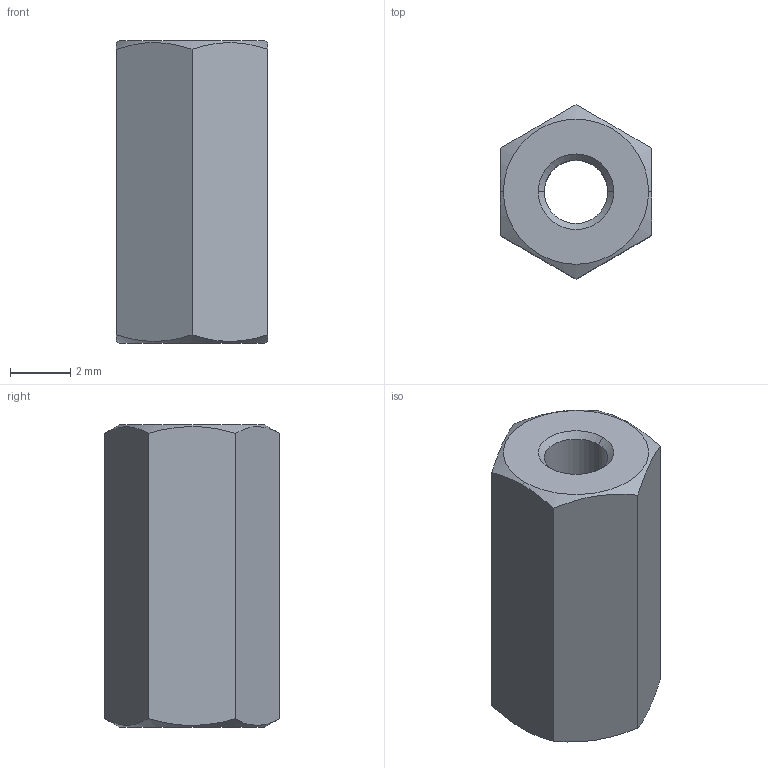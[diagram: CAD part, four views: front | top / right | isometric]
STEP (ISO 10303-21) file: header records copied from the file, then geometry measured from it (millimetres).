
FILE_DESCRIPTION (( 'STEP AP214' ), '1' );
FILE_NAME ('6220-NI-M2,5-10-A.step', '2021-08-12T05:39:49', ( '' ), ( '' ), 'SwSTEP 2.0', 'SolidWorks 2019', '' );
FILE_SCHEMA (( 'AUTOMOTIVE_DESIGN' ));
Length unit declared in the file: millimetre
Products named in the file (1): 6220-NI-M2,5-10-A
Bounding box: 5 x 5.77 x 10 mm (x, y, z)
Volume: 181 mm3; surface area: 270.6 mm2
Topology: 1 solids, 1 shells, 18 faces, 44 edges, 28 vertices
Faces by surface type: cone 8, plane 8, cylinder 2
Entity records: 652 total; most frequent: CARTESIAN_POINT 187, ORIENTED_EDGE 88, DIRECTION 78, EDGE_CURVE 44, AXIS2_PLACEMENT_3D 31, VERTEX_POINT 28, EDGE_LOOP 20, ADVANCED_FACE 18
